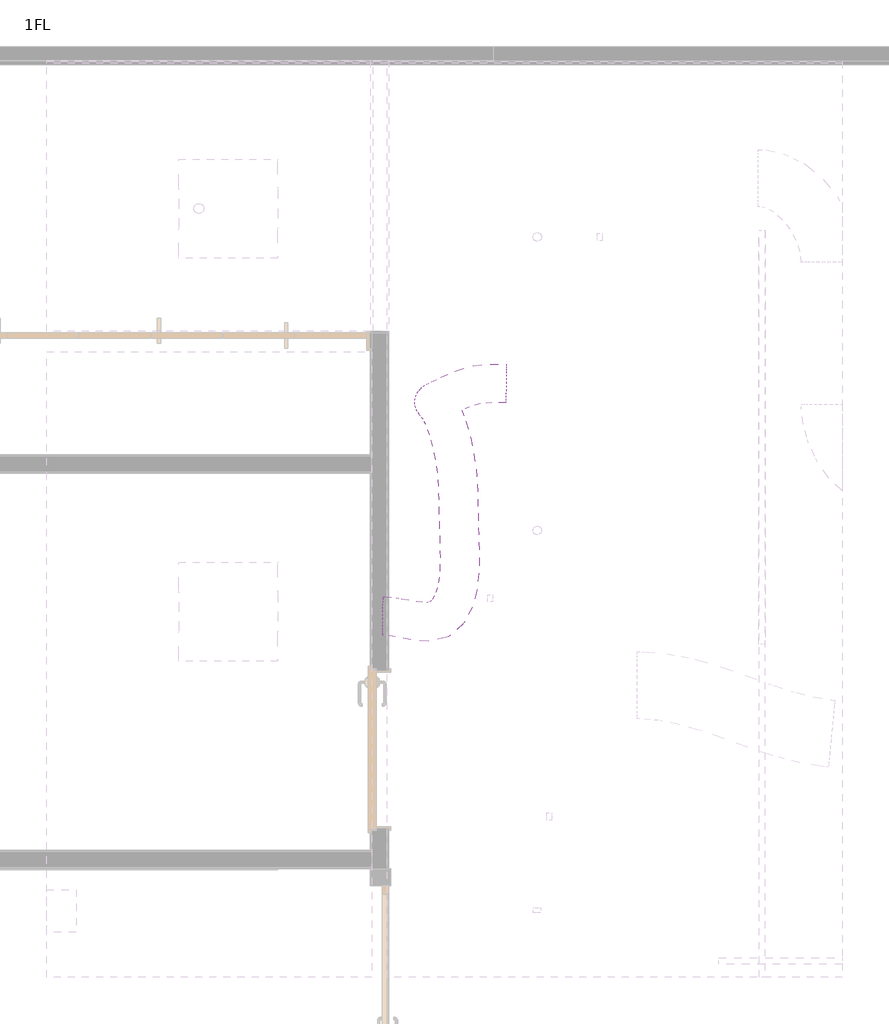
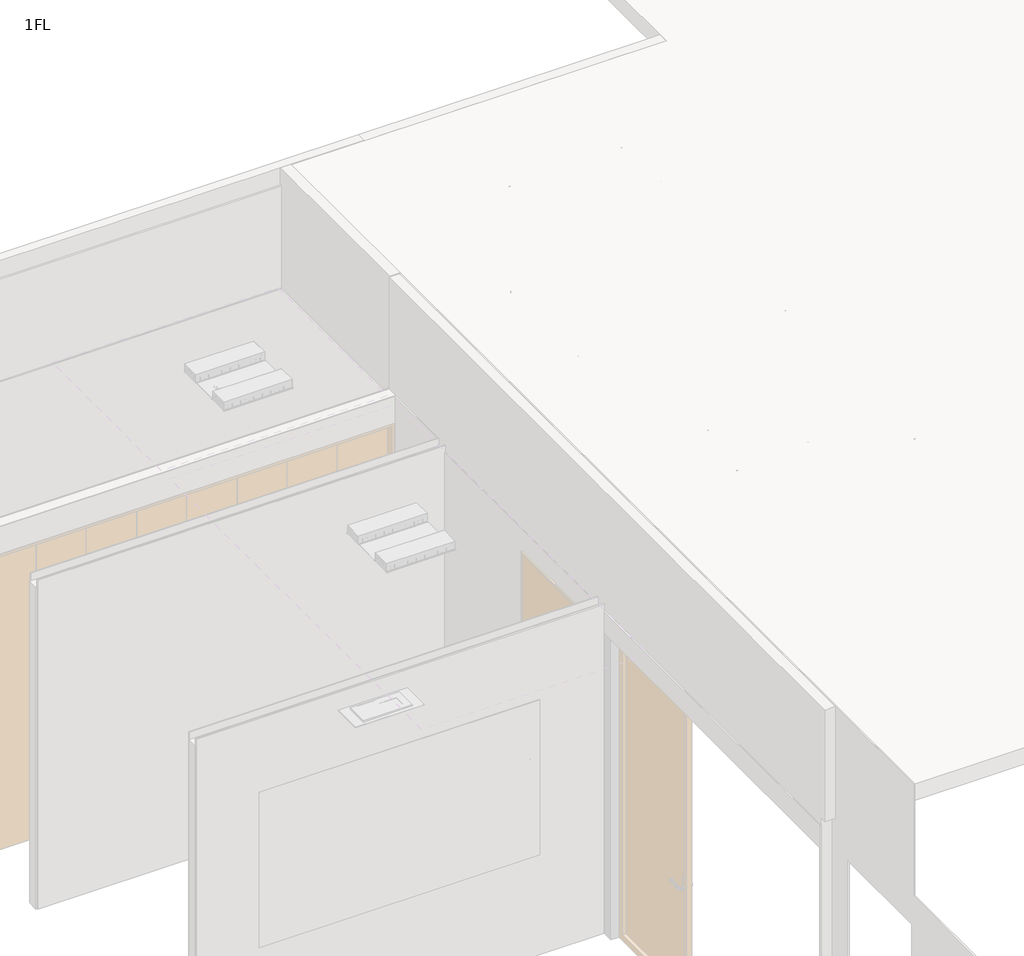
# One storey, part 9 of 13: 1 duct segment.
"""IFC4 building model written with IfcOpenShell, lengths in millimetres."""

from ifc_helpers import new_model, si_unit, frame, origin, place, context, project, spatial, circle_curve, ellipse_curve, element, save
from ifc_brep_helpers import plane_surface, cylinder_surface, advanced_brep

model = new_model("IFC4")

# Units and contexts
model_context = context("Model", 3, world=origin())
ifc_project = project(units=[si_unit("LENGTHUNIT", "METRE", prefix="MILLI")], contexts=[model_context])

# Site, building, storey
site = spatial("IfcSite", under=ifc_project)
building = spatial("IfcBuilding", under=site)
storey = spatial("IfcBuildingStorey", under=building, Name="1FL", Elevation=500.0)

# Duct segment
placement = place(None, origin())
element("IfcDuctSegment", 1, ObjectType="フレキシブル - 円形", at=placement, inside=storey, context=model_context, shape_type="AdvancedBrep", body=[
    advanced_brep(
    [(11564.0964601, 1894.3681261, 4003.3116784), (11562.5687896, 1779.3782734, 3888.3116784), (11561.0411191, 1664.3884208, 4003.3116784), (11562.5687896, 1779.3782734, 4118.3116784), (11581.5207576, 1894.1366398, 4003.3116784), (11571.4767234, 1779.2599292, 3888.3116784), (11565.6729496, 1664.3268857, 4003.3116784), (11575.7169838, 1779.2035962, 4118.3116784), (12294.9835824, 3088.6906135, 3419.6410914), (12297.0697563, 3250.5886874, 3434.9597581), (12293.774717, 3235.3139876, 3596.8418951), (12291.6885431, 3073.4159137, 3581.5232284), (11670.7682104, 1882.9715332, 4000.0041341), (11649.7184715, 1769.4716672, 3885.4120097), (11635.3506284, 1655.6100127, 4000.7293973), (11656.4003673, 1769.1098788, 4115.3215218), (11760.7863327, 1866.1458979, 3998.0699347), (11749.6735794, 1750.7886714, 3883.2642964), (11728.7610675, 1638.1503063, 3998.7223079), (11739.8738208, 1753.5075328, 4113.5279462), (11822.8723731, 1860.3041811, 4004.8655528), (11859.6055323, 1740.4451009, 3895.2968816), (11836.6038024, 1628.0033117, 4010.526218), (11799.8706433, 1747.8623919, 4120.0948892), (11857.6367273, 1868.7150689, 4019.9490414), (11961.9681698, 1765.2107172, 3939.7097784), (11942.5790592, 1653.6429651, 4056.506551), (11838.2476168, 1757.1473168, 4136.7458139), (11887.6927474, 1895.6194054, 4049.0016835), (12029.5092315, 1825.6694025, 4004.9960769), (12017.0288049, 1720.2858876, 4128.4708966), (11875.2123207, 1790.2358905, 4172.4765032), (11913.0246622, 1943.4599666, 4088.2863939), (12068.2509464, 1898.8350275, 4065.076693), (12063.4181067, 1807.8943551, 4200.4113837), (11908.1918226, 1852.5192942, 4223.6210846), (11928.556665, 2000.5655172, 4120.9167773), (12089.0543935, 1975.3217703, 4108.7815818), (12090.9378265, 1909.0744005, 4258.2261431), (11930.4400979, 1934.3181474, 4270.3613386), (11935.8418652, 2062.3640766, 4140.9532293), (12098.1850862, 2052.7751877, 4133.8936831), (12103.5088571, 2015.7113571, 4292.8001897), (11941.1656361, 2025.3002461, 4299.8597359), (11937.4114576, 2132.0536718, 4150.8372669), (12099.987433, 2132.7990341, 4145.243422), (12105.8650851, 2120.3274182, 4307.637829), (11943.2891097, 2119.5820558, 4313.231674), (11935.3844392, 2209.5269794, 4151.8087958), (12097.8581594, 2214.1805655, 4146.2639607), (12103.2749219, 2219.3243006, 4308.8792673), (11940.8012016, 2214.6707145, 4314.4241025), (11932.6558967, 2291.658419, 4145.7353059), (12095.1619574, 2295.3385316, 4140.2624576), (12100.1913905, 2312.1412094, 4302.0156039), (11937.6853298, 2308.4610968, 4307.4884522), (11931.0961198, 2373.8701857, 4134.8547808), (12093.6277389, 2376.2031792, 4129.5602204), (12098.4973666, 2401.4287839, 4290.198613), (11935.9657474, 2399.0957904, 4295.4931735), (11929.4915051, 2454.3764402, 4120.305756), (12091.9939349, 2458.1739122, 4114.7465362), (12096.7281584, 2490.1929749, 4274.1572206), (11934.2257286, 2486.395503, 4279.7164404), (11926.2675162, 2533.8436426, 4102.8738812), (12088.5876322, 2542.1349156, 4096.3289041), (12093.1125101, 2579.3140783, 4254.6076723), (11930.7923941, 2571.0228052, 4261.1526494), (11919.8741259, 2613.2048129, 4083.2643371), (12081.6082048, 2628.7705659, 4074.921891), (12085.8546569, 2669.4058296, 4232.3466829), (11924.1205779, 2653.8400765, 4240.6891289), (11908.7850275, 2693.2522189, 4062.1851163), (12069.2072797, 2718.2874824, 4051.3490242), (12073.135113, 2761.2227167, 4208.1681551), (11912.7128609, 2736.1874532, 4219.0042472), (11892.1602158, 2772.2299111, 4040.4187719), (12050.5520243, 2806.9109834, 4026.9242836), (12052.9960377, 2856.8952403, 4181.8006956), (11894.6042293, 2822.2141679, 4195.2951839), (11872.7241893, 2840.8638203, 4015.4462848), (12028.8909044, 2883.4023042, 3999.0928728), (12025.4043607, 2954.3289753, 4146.3493754), (11869.2376456, 2911.7904915, 4162.7027874), (11854.915573, 2889.1099231, 3985.0309839), (12009.0007049, 2937.2877154, 3965.1224399), (11991.776613, 3045.4313803, 4088.9166108), (11837.6914811, 2997.2535881, 4108.8251547), (11838.9434547, 2919.5131924, 3943.4178855), (11992.2196136, 2969.2308818, 3921.4016769), (11957.8718143, 3109.9698905, 4000.5824467), (11804.5956554, 3060.2522011, 4022.5986553), (11823.0857562, 2939.0695608, 3875.9429414), (11977.7557375, 2987.0683311, 3859.857485), (11933.7096963, 3139.7676121, 3897.7719683), (11779.0397151, 3091.7688418, 3913.8574246), (11813.7466235, 2949.762423, 3783.4089782), (11970.2312296, 2995.6835342, 3785.303182), (11923.9112319, 3150.986387, 3800.6868576), (11767.4266258, 3105.0652759, 3798.7926539), (11821.1451532, 2957.6122449, 3676.4483201), (11975.2540463, 3001.0127304, 3712.6882434), (11929.4375104, 3156.8497549, 3720.7933655), (11775.3286172, 3113.4492694, 3684.5534422), (11859.753422, 2974.6308787, 3565.0994109), (11995.0499031, 3009.7387999, 3655.5956274), (11946.9966407, 3164.5898691, 3670.1516228), (11811.7001596, 3129.4819478, 3579.6554064), (11938.8585124, 3012.7188486, 3480.2703023), (12031.1960842, 3027.1426693, 3616.8339206), (11976.7229617, 3178.9026676, 3638.274315), (11884.3853899, 3164.4788469, 3501.7106967), (12033.8491453, 3055.0723854, 3436.7944125), (12084.1013647, 3050.731582, 3592.6199105), (12033.3636684, 3204.1570973, 3612.3506524), (11983.111449, 3208.4979007, 3456.5251544), (12124.9026336, 3082.7319417, 3420.2166408), (12143.9924375, 3068.9248498, 3581.7157645), (12114.9647081, 3228.9452585, 3597.4938531), (12095.8749042, 3242.7523504, 3435.9947294), (12209.61364, 3089.9438945, 3418.0216798), (12210.7081255, 3074.6047539, 3579.9870831), (12205.0676567, 3236.6162594, 3595.1591804), (12203.9731712, 3251.9554, 3433.1937771)],
    [
        (0, 1, circle_curve(frame((11562.5687896, 1779.3782734, 4003.3116784), z_axis=(-0.9999117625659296, 0.013284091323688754, 0.0), x_axis=(0.013284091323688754, 0.9999117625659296, 0.0)), 115.0)),
        (1, 2, circle_curve(frame((11562.5687896, 1779.3782734, 4003.3116784), z_axis=(-0.9999117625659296, 0.013284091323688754, 0.0), x_axis=(0.013284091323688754, 0.9999117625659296, 0.0)), 115.0)),
        (2, 3, circle_curve(frame((11562.5687896, 1779.3782734, 4003.3116784), z_axis=(-0.9999117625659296, 0.013284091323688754, 0.0), x_axis=(0.013284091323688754, 0.9999117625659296, 0.0)), 115.0)),
        (3, 0, circle_curve(frame((11562.5687896, 1779.3782734, 4003.3116784), z_axis=(-0.9999117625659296, 0.013284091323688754, 0.0), x_axis=(0.013284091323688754, 0.9999117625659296, 0.0)), 115.0)),
        (0, 4),
        (4, 5, ellipse_curve(frame((11573.5968536, 1779.2317627, 4003.3116784), z_axis=(-0.997461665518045, 0.06878550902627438, 0.018405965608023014), x_axis=(-0.0710827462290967, -0.9467275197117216, -0.3140927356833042)), 115.1972863, 115.0)),
        (5, 1),
        (5, 6, ellipse_curve(frame((11573.5968536, 1779.2317627, 4003.3116784), z_axis=(-0.997461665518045, 0.06878550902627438, 0.018405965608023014), x_axis=(-0.0710827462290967, -0.9467275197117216, -0.3140927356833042)), 115.1972863, 115.0)),
        (6, 2),
        (6, 7, ellipse_curve(frame((11573.5968536, 1779.2317627, 4003.3116784), z_axis=(-0.997461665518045, 0.06878550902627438, 0.018405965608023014), x_axis=(-0.0710827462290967, -0.9467275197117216, -0.3140927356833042)), 115.1972863, 115.0)),
        (7, 3),
        (7, 4, ellipse_curve(frame((11573.5968536, 1779.2317627, 4003.3116784), z_axis=(-0.997461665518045, 0.06878550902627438, 0.018405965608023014), x_axis=(-0.0710827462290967, -0.9467275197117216, -0.3140927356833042)), 115.1972863, 115.0)),
        (8, 9, circle_curve(frame((12294.3791497, 3162.0023006, 3508.2414933), z_axis=(0.9997124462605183, -0.01467636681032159, 0.01896388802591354), x_axis=(0.005255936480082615, -0.6374929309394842, -0.7704382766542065)), 115.0)),
        (9, 10, circle_curve(frame((12294.3791497, 3162.0023006, 3508.2414933), z_axis=(0.9997124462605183, -0.01467636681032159, 0.01896388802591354), x_axis=(0.005255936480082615, -0.6374929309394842, -0.7704382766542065)), 115.0)),
        (10, 11, circle_curve(frame((12294.3791497, 3162.0023006, 3508.2414933), z_axis=(0.9997124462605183, -0.01467636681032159, 0.01896388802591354), x_axis=(0.005255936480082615, -0.6374929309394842, -0.7704382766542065)), 115.0)),
        (11, 8, circle_curve(frame((12294.3791497, 3162.0023006, 3508.2414933), z_axis=(0.9997124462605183, -0.01467636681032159, 0.01896388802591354), x_axis=(0.005255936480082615, -0.6374929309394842, -0.7704382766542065)), 115.0)),
        (4, 12),
        (12, 13, ellipse_curve(frame((11653.0594194, 1769.290773, 4000.3667657), z_axis=(-0.9876551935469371, 0.15394580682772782, 0.02894662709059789), x_axis=(-0.1418948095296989, -0.9575341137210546, 0.25098662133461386)), 115.0558066, 115.0)),
        (13, 5),
        (13, 14, ellipse_curve(frame((11653.0594194, 1769.290773, 4000.3667657), z_axis=(-0.9876551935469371, 0.15394580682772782, 0.02894662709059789), x_axis=(-0.1418948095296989, -0.9575341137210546, 0.25098662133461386)), 115.0558066, 115.0)),
        (14, 6),
        (14, 15, ellipse_curve(frame((11653.0594194, 1769.290773, 4000.3667657), z_axis=(-0.9876551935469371, 0.15394580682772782, 0.02894662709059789), x_axis=(-0.1418948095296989, -0.9575341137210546, 0.25098662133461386)), 115.0558066, 115.0)),
        (15, 7),
        (15, 12, ellipse_curve(frame((11653.0594194, 1769.290773, 4000.3667657), z_axis=(-0.9876551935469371, 0.15394580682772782, 0.02894662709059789), x_axis=(-0.1418948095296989, -0.9575341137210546, 0.25098662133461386)), 115.0558066, 115.0)),
        (12, 16),
        (16, 17, ellipse_curve(frame((11744.7737001, 1752.1481021, 3998.3961213), z_axis=(-0.9893477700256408, 0.13884297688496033, -0.04374491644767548), x_axis=(0.04417687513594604, 0.5726962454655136, 0.8185764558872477)), 115.3611815, 115.0)),
        (17, 13),
        (17, 18, ellipse_curve(frame((11744.7737001, 1752.1481021, 3998.3961213), z_axis=(-0.9893477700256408, 0.13884297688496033, -0.04374491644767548), x_axis=(0.04417687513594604, 0.5726962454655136, 0.8185764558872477)), 115.3611815, 115.0)),
        (18, 14),
        (18, 19, ellipse_curve(frame((11744.7737001, 1752.1481021, 3998.3961213), z_axis=(-0.9893477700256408, 0.13884297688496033, -0.04374491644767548), x_axis=(0.04417687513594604, 0.5726962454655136, 0.8185764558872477)), 115.3611815, 115.0)),
        (19, 15),
        (19, 16, ellipse_curve(frame((11744.7737001, 1752.1481021, 3998.3961213), z_axis=(-0.9893477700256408, 0.13884297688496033, -0.04374491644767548), x_axis=(0.04417687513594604, 0.5726962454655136, 0.8185764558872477)), 115.3611815, 115.0)),
        (16, 20),
        (20, 21, ellipse_curve(frame((11829.7380878, 1744.1537464, 4007.6958854), z_axis=(-0.9650419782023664, -0.06324212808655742, -0.2543509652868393), x_axis=(-0.2198917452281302, 0.7234524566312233, 0.6544189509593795)), 117.7303132, 115.0)),
        (21, 17),
        (21, 22, ellipse_curve(frame((11829.7380878, 1744.1537464, 4007.6958854), z_axis=(-0.9650419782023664, -0.06324212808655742, -0.2543509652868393), x_axis=(-0.2198917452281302, 0.7234524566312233, 0.6544189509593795)), 117.7303132, 115.0)),
        (22, 18),
        (22, 23, ellipse_curve(frame((11829.7380878, 1744.1537464, 4007.6958854), z_axis=(-0.9650419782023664, -0.06324212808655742, -0.2543509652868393), x_axis=(-0.2198917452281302, 0.7234524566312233, 0.6544189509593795)), 117.7303132, 115.0)),
        (23, 19),
        (23, 20, ellipse_curve(frame((11829.7380878, 1744.1537464, 4007.6958854), z_axis=(-0.9650419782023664, -0.06324212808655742, -0.2543509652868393), x_axis=(-0.2198917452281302, 0.7234524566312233, 0.6544189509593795)), 117.7303132, 115.0)),
        (20, 24),
        (24, 25, ellipse_curve(frame((11900.1078933, 1761.179017, 4038.2277962), z_axis=(-0.7724647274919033, -0.3902436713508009, -0.5010071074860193), x_axis=(-0.6089216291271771, 0.6791427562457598, 0.4098531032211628)), 118.4299941, 115.0)),
        (25, 21),
        (25, 26, ellipse_curve(frame((11900.1078933, 1761.179017, 4038.2277962), z_axis=(-0.7724647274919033, -0.3902436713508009, -0.5010071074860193), x_axis=(-0.6089216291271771, 0.6791427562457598, 0.4098531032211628)), 118.4299941, 115.0)),
        (26, 22),
        (26, 27, ellipse_curve(frame((11900.1078933, 1761.179017, 4038.2277962), z_axis=(-0.7724647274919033, -0.3902436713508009, -0.5010071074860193), x_axis=(-0.6089216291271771, 0.6791427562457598, 0.4098531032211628)), 118.4299941, 115.0)),
        (27, 23),
        (27, 24, ellipse_curve(frame((11900.1078933, 1761.179017, 4038.2277962), z_axis=(-0.7724647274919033, -0.3902436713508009, -0.5010071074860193), x_axis=(-0.6089216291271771, 0.6791427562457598, 0.4098531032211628)), 118.4299941, 115.0)),
        (24, 28),
        (28, 29, ellipse_curve(frame((11952.3607761, 1807.9526465, 4088.7362901), z_axis=(-0.4967448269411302, -0.6347166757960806, -0.5919284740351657), x_axis=(-0.7920677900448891, 0.6103473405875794, 0.01023424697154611)), 116.1871096, 115.0)),
        (29, 25),
        (29, 30, ellipse_curve(frame((11952.3607761, 1807.9526465, 4088.7362901), z_axis=(-0.4967448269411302, -0.6347166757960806, -0.5919284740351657), x_axis=(-0.7920677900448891, 0.6103473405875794, 0.01023424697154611)), 116.1871096, 115.0)),
        (30, 26),
        (30, 31, ellipse_curve(frame((11952.3607761, 1807.9526465, 4088.7362901), z_axis=(-0.4967448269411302, -0.6347166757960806, -0.5919284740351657), x_axis=(-0.7920677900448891, 0.6103473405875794, 0.01023424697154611)), 116.1871096, 115.0)),
        (31, 27),
        (31, 28, ellipse_curve(frame((11952.3607761, 1807.9526465, 4088.7362901), z_axis=(-0.4967448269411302, -0.6347166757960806, -0.5919284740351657), x_axis=(-0.7920677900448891, 0.6103473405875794, 0.01023424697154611)), 116.1871096, 115.0)),
        (28, 32),
        (32, 33, ellipse_curve(frame((11988.2213845, 1875.6771609, 4144.3488888), z_axis=(-0.306199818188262, -0.785047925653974, -0.5384620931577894), x_axis=(-0.6663946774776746, 0.5806928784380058, -0.4676685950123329)), 115.7244906, 115.0)),
        (33, 29),
        (33, 34, ellipse_curve(frame((11988.2213845, 1875.6771609, 4144.3488888), z_axis=(-0.306199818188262, -0.785047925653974, -0.5384620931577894), x_axis=(-0.6663946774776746, 0.5806928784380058, -0.4676685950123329)), 115.7244906, 115.0)),
        (34, 30),
        (34, 35, ellipse_curve(frame((11988.2213845, 1875.6771609, 4144.3488888), z_axis=(-0.306199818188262, -0.785047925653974, -0.5384620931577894), x_axis=(-0.6663946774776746, 0.5806928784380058, -0.4676685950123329)), 115.7244906, 115.0)),
        (35, 31),
        (35, 32, ellipse_curve(frame((11988.2213845, 1875.6771609, 4144.3488888), z_axis=(-0.306199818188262, -0.785047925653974, -0.5384620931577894), x_axis=(-0.6663946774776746, 0.5806928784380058, -0.4676685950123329)), 115.7244906, 115.0)),
        (32, 36),
        (36, 37, ellipse_curve(frame((12009.7472457, 1954.8199588, 4189.5714602), z_axis=(-0.17182573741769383, -0.9014064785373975, -0.3974195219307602), x_axis=(-0.5040059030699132, 0.427061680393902, -0.7507305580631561)), 115.8014871, 115.0)),
        (37, 33),
        (37, 38, ellipse_curve(frame((12009.7472457, 1954.8199588, 4189.5714602), z_axis=(-0.17182573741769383, -0.9014064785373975, -0.3974195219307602), x_axis=(-0.5040059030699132, 0.427061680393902, -0.7507305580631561)), 115.8014871, 115.0)),
        (38, 34),
        (38, 39, ellipse_curve(frame((12009.7472457, 1954.8199588, 4189.5714602), z_axis=(-0.17182573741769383, -0.9014064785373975, -0.3974195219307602), x_axis=(-0.5040059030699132, 0.427061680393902, -0.7507305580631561)), 115.8014871, 115.0)),
        (39, 35),
        (39, 36, ellipse_curve(frame((12009.7472457, 1954.8199588, 4189.5714602), z_axis=(-0.17182573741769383, -0.9014064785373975, -0.3974195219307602), x_axis=(-0.5040059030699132, 0.427061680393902, -0.7507305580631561)), 115.8014871, 115.0)),
        (36, 40),
        (40, 41, ellipse_curve(frame((12019.6753612, 2039.0377169, 4216.8767095), z_axis=(-0.06718326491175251, -0.9721559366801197, -0.22449775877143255), x_axis=(-0.46022780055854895, 0.22983386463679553, -0.8575352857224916)), 115.5431809, 115.0)),
        (41, 37),
        (41, 42, ellipse_curve(frame((12019.6753612, 2039.0377169, 4216.8767095), z_axis=(-0.06718326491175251, -0.9721559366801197, -0.22449775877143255), x_axis=(-0.46022780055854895, 0.22983386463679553, -0.8575352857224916)), 115.5431809, 115.0)),
        (42, 38),
        (42, 43, ellipse_curve(frame((12019.6753612, 2039.0377169, 4216.8767095), z_axis=(-0.06718326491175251, -0.9721559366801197, -0.22449775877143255), x_axis=(-0.46022780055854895, 0.22983386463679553, -0.8575352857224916)), 115.5431809, 115.0)),
        (43, 39),
        (43, 40, ellipse_curve(frame((12019.6753612, 2039.0377169, 4216.8767095), z_axis=(-0.06718326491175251, -0.9721559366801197, -0.22449775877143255), x_axis=(-0.46022780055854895, 0.22983386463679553, -0.8575352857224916)), 115.5431809, 115.0)),
        (40, 44),
        (44, 45, ellipse_curve(frame((12021.6382714, 2126.190545, 4229.237548), z_axis=(0.001934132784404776, -0.997056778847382, -0.07664227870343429), x_axis=(-0.35344328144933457, 0.071013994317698, -0.9327565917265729)), 115.2710412, 115.0)),
        (45, 41),
        (45, 46, ellipse_curve(frame((12021.6382714, 2126.190545, 4229.237548), z_axis=(0.001934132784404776, -0.997056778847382, -0.07664227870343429), x_axis=(-0.35344328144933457, 0.071013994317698, -0.9327565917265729)), 115.2710412, 115.0)),
        (46, 42),
        (46, 47, ellipse_curve(frame((12021.6382714, 2126.190545, 4229.237548), z_axis=(0.001934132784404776, -0.997056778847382, -0.07664227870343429), x_axis=(-0.35344328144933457, 0.071013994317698, -0.9327565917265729)), 115.2710412, 115.0)),
        (47, 43),
        (47, 44, ellipse_curve(frame((12021.6382714, 2126.190545, 4229.237548), z_axis=(0.001934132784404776, -0.997056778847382, -0.07664227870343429), x_axis=(-0.35344328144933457, 0.071013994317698, -0.9327565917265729)), 115.2710412, 115.0)),
        (44, 48),
        (48, 49, ellipse_curve(frame((12019.3296805, 2214.42564, 4230.3440316), z_axis=(0.029660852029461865, -0.9990910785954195, 0.03061454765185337), x_axis=(-0.08039780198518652, -0.0329133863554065, -0.9962193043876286)), 115.1078801, 115.0)),
        (49, 45),
        (49, 50, ellipse_curve(frame((12019.3296805, 2214.42564, 4230.3440316), z_axis=(0.029660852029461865, -0.9990910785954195, 0.03061454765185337), x_axis=(-0.08039780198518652, -0.0329133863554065, -0.9962193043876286)), 115.1078801, 115.0)),
        (50, 46),
        (50, 51, ellipse_curve(frame((12019.3296805, 2214.42564, 4230.3440316), z_axis=(0.029660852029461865, -0.9990910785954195, 0.03061454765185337), x_axis=(-0.08039780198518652, -0.0329133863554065, -0.9962193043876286)), 115.1078801, 115.0)),
        (51, 47),
        (51, 48, ellipse_curve(frame((12019.3296805, 2214.42564, 4230.3440316), z_axis=(0.029660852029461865, -0.9990910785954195, 0.03061454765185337), x_axis=(-0.08039780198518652, -0.0329133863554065, -0.9962193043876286)), 115.1078801, 115.0)),
        (48, 52),
        (52, 53, ellipse_curve(frame((12016.4236436, 2301.8998142, 4223.8754549), z_axis=(0.025970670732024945, -0.994395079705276, 0.102488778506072), x_axis=(0.24051693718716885, -0.09329614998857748, -0.9661508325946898)), 115.050903, 115.0)),
        (53, 49),
        (53, 54, ellipse_curve(frame((12016.4236436, 2301.8998142, 4223.8754549), z_axis=(0.025970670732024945, -0.994395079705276, 0.102488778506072), x_axis=(0.24051693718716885, -0.09329614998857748, -0.9661508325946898)), 115.050903, 115.0)),
        (54, 50),
        (54, 55, ellipse_curve(frame((12016.4236436, 2301.8998142, 4223.8754549), z_axis=(0.025970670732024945, -0.994395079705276, 0.102488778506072), x_axis=(0.24051693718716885, -0.09329614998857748, -0.9661508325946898)), 115.050903, 115.0)),
        (55, 51),
        (55, 52, ellipse_curve(frame((12016.4236436, 2301.8998142, 4223.8754549), z_axis=(0.025970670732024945, -0.994395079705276, 0.102488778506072), x_axis=(0.24051693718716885, -0.09329614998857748, -0.9661508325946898)), 115.050903, 115.0)),
        (52, 56),
        (56, 57, ellipse_curve(frame((12014.7967432, 2387.6494848, 4212.5266969), z_axis=(0.019213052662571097, -0.9878004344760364, 0.1545353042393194), x_axis=(-0.017049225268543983, -0.15486505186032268, -0.9877885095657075)), 115.0320391, 115.0)),
        (57, 53),
        (57, 58, ellipse_curve(frame((12014.7967432, 2387.6494848, 4212.5266969), z_axis=(0.019213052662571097, -0.9878004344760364, 0.1545353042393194), x_axis=(-0.017049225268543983, -0.15486505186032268, -0.9877885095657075)), 115.0320391, 115.0)),
        (58, 54),
        (58, 59, ellipse_curve(frame((12014.7967432, 2387.6494848, 4212.5266969), z_axis=(0.019213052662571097, -0.9878004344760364, 0.1545353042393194), x_axis=(-0.017049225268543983, -0.15486505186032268, -0.9877885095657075)), 115.0320391, 115.0)),
        (59, 55),
        (59, 56, ellipse_curve(frame((12014.7967432, 2387.6494848, 4212.5266969), z_axis=(0.019213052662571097, -0.9878004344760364, 0.1545353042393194), x_axis=(-0.017049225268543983, -0.15486505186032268, -0.9877885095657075)), 115.0320391, 115.0)),
        (56, 60),
        (60, 61, ellipse_curve(frame((12013.1098317, 2472.2847076, 4197.2314883), z_axis=(0.02960999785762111, -0.9801579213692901, 0.19599412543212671), x_axis=(-0.47394159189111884, -0.1864046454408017, -0.8606001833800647)), 115.0255732, 115.0)),
        (61, 57),
        (61, 62, ellipse_curve(frame((12013.1098317, 2472.2847076, 4197.2314883), z_axis=(0.02960999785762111, -0.9801579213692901, 0.19599412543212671), x_axis=(-0.47394159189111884, -0.1864046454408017, -0.8606001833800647)), 115.0255732, 115.0)),
        (62, 58),
        (62, 63, ellipse_curve(frame((12013.1098317, 2472.2847076, 4197.2314883), z_axis=(0.02960999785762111, -0.9801579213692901, 0.19599412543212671), x_axis=(-0.47394159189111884, -0.1864046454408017, -0.8606001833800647)), 115.0255732, 115.0)),
        (63, 59),
        (63, 60, ellipse_curve(frame((12013.1098317, 2472.2847076, 4197.2314883), z_axis=(0.02960999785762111, -0.9801579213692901, 0.19599412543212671), x_axis=(-0.47394159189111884, -0.1864046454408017, -0.8606001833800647)), 115.0255732, 115.0)),
        (60, 64),
        (64, 65, ellipse_curve(frame((12009.6900131, 2556.5788604, 4178.7407767), z_axis=(0.0587995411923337, -0.9721919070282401, 0.22668372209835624), x_axis=(-0.8243910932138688, -0.17534555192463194, -0.5381758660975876)), 115.0311591, 115.0)),
        (65, 61),
        (65, 66, ellipse_curve(frame((12009.6900131, 2556.5788604, 4178.7407767), z_axis=(0.0587995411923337, -0.9721919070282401, 0.22668372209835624), x_axis=(-0.8243910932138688, -0.17534555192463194, -0.5381758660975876)), 115.0311591, 115.0)),
        (66, 62),
        (66, 67, ellipse_curve(frame((12009.6900131, 2556.5788604, 4178.7407767), z_axis=(0.0587995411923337, -0.9721919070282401, 0.22668372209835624), x_axis=(-0.8243910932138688, -0.17534555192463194, -0.5381758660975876)), 115.0311591, 115.0)),
        (67, 63),
        (67, 64, ellipse_curve(frame((12009.6900131, 2556.5788604, 4178.7407767), z_axis=(0.0587995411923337, -0.9721919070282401, 0.22668372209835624), x_axis=(-0.8243910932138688, -0.17534555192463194, -0.5381758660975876)), 115.0311591, 115.0)),
        (64, 68),
        (68, 69, ellipse_curve(frame((12002.8643914, 2641.3053212, 4157.80551), z_axis=(0.1054175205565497, -0.9635525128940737, 0.2458733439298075), x_axis=(-0.9588297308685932, -0.16405097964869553, -0.23180341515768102)), 115.0469979, 115.0)),
        (69, 65),
        (69, 70, ellipse_curve(frame((12002.8643914, 2641.3053212, 4157.80551), z_axis=(0.1054175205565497, -0.9635525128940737, 0.2458733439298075), x_axis=(-0.9588297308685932, -0.16405097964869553, -0.23180341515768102)), 115.0469979, 115.0)),
        (70, 66),
        (70, 71, ellipse_curve(frame((12002.8643914, 2641.3053212, 4157.80551), z_axis=(0.1054175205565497, -0.9635525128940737, 0.2458733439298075), x_axis=(-0.9588297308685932, -0.16405097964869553, -0.23180341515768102)), 115.0469979, 115.0)),
        (71, 67),
        (71, 68, ellipse_curve(frame((12002.8643914, 2641.3053212, 4157.80551), z_axis=(0.1054175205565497, -0.9635525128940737, 0.2458733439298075), x_axis=(-0.9588297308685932, -0.16405097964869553, -0.23180341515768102)), 115.0469979, 115.0)),
        (68, 72),
        (72, 73, ellipse_curve(frame((11990.9600703, 2727.2374678, 4135.1766357), z_axis=(0.16592520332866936, -0.9521846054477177, 0.25654103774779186), x_axis=(-0.9724862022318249, -0.20113195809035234, -0.11754370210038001)), 115.0664728, 115.0)),
        (73, 69),
        (73, 74, ellipse_curve(frame((11990.9600703, 2727.2374678, 4135.1766357), z_axis=(0.16592520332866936, -0.9521846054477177, 0.25654103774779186), x_axis=(-0.9724862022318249, -0.20113195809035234, -0.11754370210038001)), 115.0664728, 115.0)),
        (74, 70),
        (74, 75, ellipse_curve(frame((11990.9600703, 2727.2374678, 4135.1766357), z_axis=(0.16592520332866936, -0.9521846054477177, 0.25654103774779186), x_axis=(-0.9724862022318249, -0.20113195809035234, -0.11754370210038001)), 115.0664728, 115.0)),
        (75, 71),
        (75, 72, ellipse_curve(frame((11990.9600703, 2727.2374678, 4135.1766357), z_axis=(0.16592520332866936, -0.9521846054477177, 0.25654103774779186), x_axis=(-0.9724862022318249, -0.20113195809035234, -0.11754370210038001)), 115.0664728, 115.0)),
        (72, 76),
        (76, 77, ellipse_curve(frame((11972.5781268, 2814.5625757, 4111.1097337), z_axis=(0.22829856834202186, -0.9275802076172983, 0.29576125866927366), x_axis=(-0.5934245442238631, -0.373407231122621, -0.7130318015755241)), 115.1389272, 115.0)),
        (77, 73),
        (77, 78, ellipse_curve(frame((11972.5781268, 2814.5625757, 4111.1097337), z_axis=(0.22829856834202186, -0.9275802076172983, 0.29576125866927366), x_axis=(-0.5934245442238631, -0.373407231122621, -0.7130318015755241)), 115.1389272, 115.0)),
        (78, 74),
        (78, 79, ellipse_curve(frame((11972.5781268, 2814.5625757, 4111.1097337), z_axis=(0.22829856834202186, -0.9275802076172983, 0.29576125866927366), x_axis=(-0.5934245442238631, -0.373407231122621, -0.7130318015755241)), 115.1389272, 115.0)),
        (79, 75),
        (79, 76, ellipse_curve(frame((11972.5781268, 2814.5625757, 4111.1097337), z_axis=(0.22829856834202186, -0.9275802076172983, 0.29576125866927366), x_axis=(-0.5934245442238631, -0.373407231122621, -0.7130318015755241)), 115.1389272, 115.0)),
        (76, 80),
        (80, 81, ellipse_curve(frame((11949.064275, 2897.5963978, 4080.8978301), z_axis=(0.2791412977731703, -0.8625280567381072, 0.4220491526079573), x_axis=(-0.19559050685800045, -0.48137722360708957, -0.854412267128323)), 115.6335285, 115.0)),
        (81, 77),
        (81, 82, ellipse_curve(frame((11949.064275, 2897.5963978, 4080.8978301), z_axis=(0.2791412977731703, -0.8625280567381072, 0.4220491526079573), x_axis=(-0.19559050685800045, -0.48137722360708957, -0.854412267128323)), 115.6335285, 115.0)),
        (82, 78),
        (82, 83, ellipse_curve(frame((11949.064275, 2897.5963978, 4080.8978301), z_axis=(0.2791412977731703, -0.8625280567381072, 0.4220491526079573), x_axis=(-0.19559050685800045, -0.48137722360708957, -0.854412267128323)), 115.6335285, 115.0)),
        (83, 79),
        (83, 80, ellipse_curve(frame((11949.064275, 2897.5963978, 4080.8978301), z_axis=(0.2791412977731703, -0.8625280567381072, 0.4220491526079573), x_axis=(-0.19559050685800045, -0.48137722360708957, -0.854412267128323)), 115.6335285, 115.0)),
        (80, 84),
        (84, 85, ellipse_curve(frame((11923.346093, 2967.2706517, 4036.9737973), z_axis=(0.3019239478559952, -0.6967526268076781, 0.6506748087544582), x_axis=(0.005667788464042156, -0.6812030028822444, -0.7320726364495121)), 116.889683, 115.0)),
        (85, 81),
        (85, 86, ellipse_curve(frame((11923.346093, 2967.2706517, 4036.9737973), z_axis=(0.3019239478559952, -0.6967526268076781, 0.6506748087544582), x_axis=(0.005667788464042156, -0.6812030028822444, -0.7320726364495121)), 116.889683, 115.0)),
        (86, 82),
        (86, 87, ellipse_curve(frame((11923.346093, 2967.2706517, 4036.9737973), z_axis=(0.3019239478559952, -0.6967526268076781, 0.6506748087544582), x_axis=(0.005667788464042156, -0.6812030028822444, -0.7320726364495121)), 116.889683, 115.0)),
        (87, 83),
        (87, 84, ellipse_curve(frame((11923.346093, 2967.2706517, 4036.9737973), z_axis=(0.3019239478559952, -0.6967526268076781, 0.6506748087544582), x_axis=(0.005667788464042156, -0.6812030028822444, -0.7320726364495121)), 116.889683, 115.0)),
        (84, 88),
        (88, 89, ellipse_curve(frame((11898.4076345, 3014.7415414, 3972.0001661), z_axis=(0.2620150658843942, -0.42384067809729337, 0.8670104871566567), x_axis=(0.22038589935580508, -0.8483791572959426, -0.48133445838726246)), 116.7411178, 115.0)),
        (89, 85),
        (89, 90, ellipse_curve(frame((11898.4076345, 3014.7415414, 3972.0001661), z_axis=(0.2620150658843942, -0.42384067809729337, 0.8670104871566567), x_axis=(0.22038589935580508, -0.8483791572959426, -0.48133445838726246)), 116.7411178, 115.0)),
        (90, 86),
        (90, 91, ellipse_curve(frame((11898.4076345, 3014.7415414, 3972.0001661), z_axis=(0.2620150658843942, -0.42384067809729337, 0.8670104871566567), x_axis=(0.22038589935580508, -0.8483791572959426, -0.48133445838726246)), 116.7411178, 115.0)),
        (91, 87),
        (91, 88, ellipse_curve(frame((11898.4076345, 3014.7415414, 3972.0001661), z_axis=(0.2620150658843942, -0.42384067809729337, 0.8670104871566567), x_axis=(0.22038589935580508, -0.8483791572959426, -0.48133445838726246)), 116.7411178, 115.0)),
        (88, 92),
        (92, 93, ellipse_curve(frame((11878.3977263, 3039.4185865, 3886.8574548), z_axis=(0.1608176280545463, -0.19389986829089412, 0.9677502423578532), x_axis=(0.5882615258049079, -0.7684917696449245, -0.2517315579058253)), 115.6072211, 115.0)),
        (93, 89),
        (93, 94, ellipse_curve(frame((11878.3977263, 3039.4185865, 3886.8574548), z_axis=(0.1608176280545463, -0.19389986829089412, 0.9677502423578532), x_axis=(0.5882615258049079, -0.7684917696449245, -0.2517315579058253)), 115.6072211, 115.0)),
        (94, 90),
        (94, 95, ellipse_curve(frame((11878.3977263, 3039.4185865, 3886.8574548), z_axis=(0.1608176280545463, -0.19389986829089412, 0.9677502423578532), x_axis=(0.5882615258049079, -0.7684917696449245, -0.2517315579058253)), 115.6072211, 115.0)),
        (95, 91),
        (95, 92, ellipse_curve(frame((11878.3977263, 3039.4185865, 3886.8574548), z_axis=(0.1608176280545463, -0.19389986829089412, 0.9677502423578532), x_axis=(0.5882615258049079, -0.7684917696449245, -0.2517315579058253)), 115.6072211, 115.0)),
        (92, 96),
        (96, 97, ellipse_curve(frame((11868.8289277, 3050.374405, 3792.0479179), z_axis=(0.015527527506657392, -0.09397444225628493, 0.9954535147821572), x_axis=(0.9707256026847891, -0.23723974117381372, -0.03753810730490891)), 115.4360086, 115.0)),
        (97, 93),
        (97, 98, ellipse_curve(frame((11868.8289277, 3050.374405, 3792.0479179), z_axis=(0.015527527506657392, -0.09397444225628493, 0.9954535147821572), x_axis=(0.9707256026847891, -0.23723974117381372, -0.03753810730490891)), 115.4360086, 115.0)),
        (98, 94),
        (98, 99, ellipse_curve(frame((11868.8289277, 3050.374405, 3792.0479179), z_axis=(0.015527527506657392, -0.09397444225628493, 0.9954535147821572), x_axis=(0.9707256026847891, -0.23723974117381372, -0.03753810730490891)), 115.4360086, 115.0)),
        (99, 95),
        (99, 96, ellipse_curve(frame((11868.8289277, 3050.374405, 3792.0479179), z_axis=(0.015527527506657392, -0.09397444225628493, 0.9954535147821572), x_axis=(0.9707256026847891, -0.23723974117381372, -0.03753810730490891)), 115.4360086, 115.0)),
        (96, 100),
        (100, 101, ellipse_curve(frame((11875.2913318, 3057.2309999, 3698.6208428), z_axis=(-0.19836443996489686, -0.10898033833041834, 0.9740507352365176), x_axis=(0.9408085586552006, 0.2574907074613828, 0.22040370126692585)), 116.0743539, 115.0)),
        (101, 97),
        (101, 102, ellipse_curve(frame((11875.2913318, 3057.2309999, 3698.6208428), z_axis=(-0.19836443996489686, -0.10898033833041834, 0.9740507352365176), x_axis=(0.9408085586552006, 0.2574907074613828, 0.22040370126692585)), 116.0743539, 115.0)),
        (102, 98),
        (102, 103, ellipse_curve(frame((11875.2913318, 3057.2309999, 3698.6208428), z_axis=(-0.19836443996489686, -0.10898033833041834, 0.9740507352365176), x_axis=(0.9408085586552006, 0.2574907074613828, 0.22040370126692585)), 116.0743539, 115.0)),
        (103, 99),
        (103, 100, ellipse_curve(frame((11875.2913318, 3057.2309999, 3698.6208428), z_axis=(-0.19836443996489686, -0.10898033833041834, 0.9740507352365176), x_axis=(0.9408085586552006, 0.2574907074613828, 0.22040370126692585)), 116.0743539, 115.0)),
        (100, 104),
        (104, 105, ellipse_curve(frame((11903.3750314, 3069.6103739, 3617.6255169), z_axis=(-0.49814379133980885, -0.23309026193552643, 0.8351776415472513), x_axis=(0.7405189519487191, 0.38672317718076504, 0.549615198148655)), 117.8497259, 115.0)),
        (105, 101),
        (105, 106, ellipse_curve(frame((11903.3750314, 3069.6103739, 3617.6255169), z_axis=(-0.49814379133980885, -0.23309026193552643, 0.8351776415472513), x_axis=(0.7405189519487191, 0.38672317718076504, 0.549615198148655)), 117.8497259, 115.0)),
        (106, 102),
        (106, 107, ellipse_curve(frame((11903.3750314, 3069.6103739, 3617.6255169), z_axis=(-0.49814379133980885, -0.23309026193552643, 0.8351776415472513), x_axis=(0.7405189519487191, 0.38672317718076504, 0.549615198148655)), 117.8497259, 115.0)),
        (107, 103),
        (107, 104, ellipse_curve(frame((11903.3750314, 3069.6103739, 3617.6255169), z_axis=(-0.49814379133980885, -0.23309026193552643, 0.8351776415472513), x_axis=(0.7405189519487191, 0.38672317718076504, 0.549615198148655)), 117.8497259, 115.0)),
        (104, 108),
        (108, 109, ellipse_curve(frame((11957.790737, 3095.8107581, 3559.2723087), z_axis=(-0.7584698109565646, -0.3499216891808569, 0.5497984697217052), x_axis=(0.5249701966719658, 0.17184771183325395, 0.8335914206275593)), 117.0299199, 115.0)),
        (109, 105),
        (109, 110, ellipse_curve(frame((11957.790737, 3095.8107581, 3559.2723087), z_axis=(-0.7584698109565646, -0.3499216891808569, 0.5497984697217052), x_axis=(0.5249701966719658, 0.17184771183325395, 0.8335914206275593)), 117.0299199, 115.0)),
        (110, 106),
        (110, 111, ellipse_curve(frame((11957.790737, 3095.8107581, 3559.2723087), z_axis=(-0.7584698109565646, -0.3499216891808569, 0.5497984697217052), x_axis=(0.5249701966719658, 0.17184771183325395, 0.8335914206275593)), 117.0299199, 115.0)),
        (111, 107),
        (111, 108, ellipse_curve(frame((11957.790737, 3095.8107581, 3559.2723087), z_axis=(-0.7584698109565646, -0.3499216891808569, 0.5497984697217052), x_axis=(0.5249701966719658, 0.17184771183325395, 0.8335914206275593)), 117.0299199, 115.0)),
        (108, 112),
        (112, 113, ellipse_curve(frame((12033.6064068, 3129.6147413, 3524.5725325), z_axis=(-0.8998539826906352, -0.33370491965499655, 0.28089826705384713), x_axis=(0.39575874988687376, -0.3538380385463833, 0.8474512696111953)), 115.9282508, 115.0)),
        (113, 109),
        (113, 114, ellipse_curve(frame((12033.6064068, 3129.6147413, 3524.5725325), z_axis=(-0.8998539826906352, -0.33370491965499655, 0.28089826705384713), x_axis=(0.39575874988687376, -0.3538380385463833, 0.8474512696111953)), 115.9282508, 115.0)),
        (114, 110),
        (114, 115, ellipse_curve(frame((12033.6064068, 3129.6147413, 3524.5725325), z_axis=(-0.8998539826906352, -0.33370491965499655, 0.28089826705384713), x_axis=(0.39575874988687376, -0.3538380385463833, 0.8474512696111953)), 115.9282508, 115.0)),
        (115, 111),
        (115, 112, ellipse_curve(frame((12033.6064068, 3129.6147413, 3524.5725325), z_axis=(-0.8998539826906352, -0.33370491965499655, 0.28089826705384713), x_axis=(0.39575874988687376, -0.3538380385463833, 0.8474512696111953)), 115.9282508, 115.0)),
        (112, 116),
        (116, 117, ellipse_curve(frame((12119.9336709, 3155.8386001, 3508.8552469), z_axis=(-0.9772876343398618, -0.1870932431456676, 0.09952385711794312), x_axis=(0.21000761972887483, -0.7921302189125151, 0.5730850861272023)), 115.9420366, 115.0)),
        (117, 113),
        (117, 118, ellipse_curve(frame((12119.9336709, 3155.8386001, 3508.8552469), z_axis=(-0.9772876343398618, -0.1870932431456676, 0.09952385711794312), x_axis=(0.21000761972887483, -0.7921302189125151, 0.5730850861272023)), 115.9420366, 115.0)),
        (118, 114),
        (118, 119, ellipse_curve(frame((12119.9336709, 3155.8386001, 3508.8552469), z_axis=(-0.9772876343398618, -0.1870932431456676, 0.09952385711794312), x_axis=(0.21000761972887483, -0.7921302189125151, 0.5730850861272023)), 115.9420366, 115.0)),
        (119, 115),
        (119, 116, ellipse_curve(frame((12119.9336709, 3155.8386001, 3508.8552469), z_axis=(-0.9772876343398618, -0.1870932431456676, 0.09952385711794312), x_axis=(0.21000761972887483, -0.7921302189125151, 0.5730850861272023)), 115.9420366, 115.0)),
        (116, 120),
        (120, 121, ellipse_curve(frame((12207.3406483, 3163.280077, 3506.5904301), z_axis=(-0.9993774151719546, -0.035114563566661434, 0.003427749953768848), x_axis=(0.03342969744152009, -0.9113832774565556, 0.4101987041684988)), 115.1716423, 115.0)),
        (121, 117),
        (121, 122, ellipse_curve(frame((12207.3406483, 3163.280077, 3506.5904301), z_axis=(-0.9993774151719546, -0.035114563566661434, 0.003427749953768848), x_axis=(0.03342969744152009, -0.9113832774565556, 0.4101987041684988)), 115.1716423, 115.0)),
        (122, 118),
        (122, 123, ellipse_curve(frame((12207.3406483, 3163.280077, 3506.5904301), z_axis=(-0.9993774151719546, -0.035114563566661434, 0.003427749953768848), x_axis=(0.03342969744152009, -0.9113832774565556, 0.4101987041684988)), 115.1716423, 115.0)),
        (123, 119),
        (123, 120, ellipse_curve(frame((12207.3406483, 3163.280077, 3506.5904301), z_axis=(-0.9993774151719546, -0.035114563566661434, 0.003427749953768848), x_axis=(0.03342969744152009, -0.9113832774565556, 0.4101987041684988)), 115.1716423, 115.0)),
        (120, 8),
        (11, 121),
        (10, 122),
        (9, 123),
    ],
    [
        plane_surface(frame((11562.5687896, 1779.3782734, 3888.3116784), z_axis=(-0.9999117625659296, 0.013284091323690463, 0.0), x_axis=(0.013284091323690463, 0.9999117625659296, 0.0))),
        cylinder_surface(frame((11562.5687896, 1779.3782734, 4003.3116784), z_axis=(-0.9999117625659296, 0.013284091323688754, 0.0), x_axis=(0.013284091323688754, 0.9999117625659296, 0.0)), 115.0),
        plane_surface(frame((12294.3791497, 3071.0566491, 3437.857628), z_axis=(0.9997124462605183, -0.014676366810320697, 0.018963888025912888), x_axis=(0.023979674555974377, 0.611857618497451, -0.7906043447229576))),
        cylinder_surface(frame((11573.5968536, 1779.2317627, 4003.3116784), z_axis=(-0.9915950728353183, 0.12405132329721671, 0.036748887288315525), x_axis=(0.1240603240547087, 0.9922725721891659, -0.002044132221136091)), 115.0),
        cylinder_surface(frame((11653.0594194, 1769.290773, 4000.3667657), z_axis=(-0.9827572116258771, 0.18369095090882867, 0.02111628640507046), x_axis=(0.18365189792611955, 0.9829840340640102, -0.0037906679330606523)), 115.0),
        cylinder_surface(frame((11744.7737001, 1752.1481021, 3998.3961213), z_axis=(-0.98974327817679, 0.0931256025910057, -0.10833219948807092), x_axis=(0.09451296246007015, 0.9954936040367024, -0.0077320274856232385)), 115.0),
        cylinder_surface(frame((11829.7380878, 1744.1537464, 4007.6958854), z_axis=(-0.895579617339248, -0.21667653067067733, -0.3885722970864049), x_axis=(-0.19924477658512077, 0.9762427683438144, -0.08515618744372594)), 115.0),
        cylinder_surface(frame((11900.1078933, 1761.179017, 4038.2277962), z_axis=(-0.6046052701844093, -0.5412061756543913, -0.5844213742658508), x_axis=(-0.4841284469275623, 0.8323215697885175, -0.26992675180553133)), 115.0),
        cylinder_surface(frame((11952.3607761, 1807.9526465, 4088.7362901), z_axis=(-0.37873367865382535, -0.7152570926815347, -0.5873398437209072), x_axis=(-0.6113177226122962, 0.6698052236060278, -0.42148737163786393)), 115.0),
        cylinder_surface(frame((11988.2213845, 1875.6771609, 4144.3488888), z_axis=(-0.22983204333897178, -0.8450092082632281, -0.4828422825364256), x_axis=(-0.6797159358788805, 0.4944430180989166, -0.5417677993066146)), 115.0),
        cylinder_surface(frame((12009.7472457, 1954.8199588, 4189.5714602), z_axis=(-0.11144094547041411, -0.9453260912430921, -0.30649550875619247), x_axis=(-0.7187521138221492, 0.28965726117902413, -0.632055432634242)), 115.0),
        cylinder_surface(frame((12019.6753612, 2039.0377169, 4216.8767095), z_axis=(-0.02229391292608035, -0.9898453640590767, -0.14038923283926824), x_axis=(-0.7310344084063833, 0.11192988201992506, -0.6730976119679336)), 115.0),
        cylinder_surface(frame((12021.6382714, 2126.190545, 4229.237548), z_axis=(0.026153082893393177, -0.9995793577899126, -0.01253490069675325), x_axis=(-0.7307967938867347, -0.0105617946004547, -0.6825133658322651)), 115.0),
        cylinder_surface(frame((12019.3296805, 2214.42564, 4230.3440316), z_axis=(0.03311302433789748, -0.9967300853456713, 0.0737066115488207), x_axis=(-0.7288973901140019, -0.07454098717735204, -0.6805528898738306)), 115.0),
        cylinder_surface(frame((12016.4236436, 2301.8998142, 4223.8754549), z_axis=(0.01880533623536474, -0.9911801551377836, 0.13118025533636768), x_axis=(-0.7281413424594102, -0.10348941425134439, -0.6775692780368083)), 115.0),
        cylinder_surface(frame((12014.7967432, 2387.6494848, 4212.5266969), z_axis=(0.019610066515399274, -0.9838704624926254, 0.1778042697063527), x_axis=(-0.7275084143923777, -0.13603013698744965, -0.6724784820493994)), 115.0),
        cylinder_surface(frame((12013.1098317, 2472.2847076, 4197.2314883), z_axis=(0.03959676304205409, -0.976009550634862, 0.2140968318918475), x_axis=(-0.7263232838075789, -0.17526064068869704, -0.6646338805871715)), 115.0),
        cylinder_surface(frame((12009.6900131, 2556.5788604, 4178.7407767), z_axis=(0.07797046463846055, -0.967847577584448, 0.2391478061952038), x_axis=(-0.7236206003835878, -0.2199468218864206, -0.6542145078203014)), 115.0),
        cylinder_surface(frame((12002.8643914, 2641.3053212, 4157.80551), z_axis=(0.13277844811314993, -0.9584702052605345, 0.25239799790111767), x_axis=(-0.7183063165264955, -0.2685212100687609, -0.6418195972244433)), 115.0),
        cylinder_surface(frame((11990.9600703, 2727.2374678, 4135.1766357), z_axis=(0.19888025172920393, -0.9447988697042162, 0.26038767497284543), x_axis=(-0.708962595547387, -0.32214143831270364, -0.6273730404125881)), 115.0),
        cylinder_surface(frame((11972.5781268, 2814.5625757, 4111.1097337), z_axis=(0.2571659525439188, -0.9081230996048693, 0.33042110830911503), x_axis=(-0.6867739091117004, -0.41229437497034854, -0.598627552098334)), 115.0),
        cylinder_surface(frame((11949.064275, 2897.5963978, 4080.8978301), z_axis=(0.29805794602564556, -0.8074818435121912, 0.5090525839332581), x_axis=(-0.6372309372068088, -0.5653788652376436, -0.5237207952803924)), 115.0),
        cylinder_surface(frame((11923.346093, 2967.2706517, 4036.9737973), z_axis=(0.29602791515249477, -0.5634954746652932, 0.7712589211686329), x_axis=(-0.5531523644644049, -0.7594077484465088, -0.34252347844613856)), 115.0),
        cylinder_surface(frame((11898.4076345, 3014.7415414, 3972.0001661), z_axis=(0.2201866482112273, -0.27154326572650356, 0.936900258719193), x_axis=(-0.49024893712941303, -0.8611615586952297, -0.13437540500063)), 115.0),
        cylinder_surface(frame((11878.3977263, 3039.4185865, 3886.8574548), z_axis=(0.09975923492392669, -0.1142195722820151, 0.9884341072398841), x_axis=(-0.4767713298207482, -0.877411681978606, -0.05327137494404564)), 115.0),
        cylinder_surface(frame((11868.8289277, 3050.374405, 3792.0479179), z_axis=(-0.06882147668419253, -0.07301941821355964, 0.9949531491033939), x_axis=(-0.47745522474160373, -0.8732726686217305, -0.09711516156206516)), 115.0),
        cylinder_surface(frame((11875.2913318, 3057.2309999, 3698.6208428), z_axis=(-0.32423538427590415, -0.14292387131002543, 0.9351172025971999), x_axis=(-0.4396530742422, -0.8525043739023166, -0.282739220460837)), 115.0),
        cylinder_surface(frame((11903.3750314, 3069.6103739, 3617.6255169), z_axis=(-0.6479609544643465, -0.31198393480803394, 0.6948471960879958), x_axis=(-0.2587437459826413, -0.7678537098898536, -0.5860480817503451)), 115.0),
        cylinder_surface(frame((11957.790737, 3095.8107581, 3559.2723087), z_axis=(-0.8426668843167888, -0.37572044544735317, 0.3856768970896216), x_axis=(-0.04223148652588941, -0.6679653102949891, -0.7429931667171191)), 115.0),
        cylinder_surface(frame((12033.6064068, 3129.6147413, 3524.5725325), z_axis=(-0.9426306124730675, -0.28634536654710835, 0.17162126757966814), x_axis=(0.0517132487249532, -0.6331265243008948, -0.7723189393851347)), 115.0),
        cylinder_surface(frame((12119.9336709, 3155.8386001, 3508.8552469), z_axis=(-0.9960636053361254, -0.08480083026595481, 0.025809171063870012), x_axis=(0.03422139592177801, -0.6364751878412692, -0.7705376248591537)), 115.0),
        cylinder_surface(frame((12207.3406483, 3163.280077, 3506.5904301), z_axis=(-0.9997124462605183, 0.01467636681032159, -0.01896388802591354), x_axis=(0.005255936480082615, -0.6374929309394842, -0.7704382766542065)), 115.0),
    ],
    [
        (0, [[1, 2, 3, 4]]),
        (1, [[-1, 5, 6, 7]]),
        (1, [[-2, -7, 8, 9]]),
        (1, [[-3, -9, 10, 11]]),
        (1, [[-4, -11, 12, -5]]),
        (2, [[13, 14, 15, 16]]),
        (3, [[-6, 17, 18, 19]]),
        (3, [[-8, -19, 20, 21]]),
        (3, [[-10, -21, 22, 23]]),
        (3, [[-12, -23, 24, -17]]),
        (4, [[-18, 25, 26, 27]]),
        (4, [[-20, -27, 28, 29]]),
        (4, [[-22, -29, 30, 31]]),
        (4, [[-24, -31, 32, -25]]),
        (5, [[-26, 33, 34, 35]]),
        (5, [[-28, -35, 36, 37]]),
        (5, [[-30, -37, 38, 39]]),
        (5, [[-32, -39, 40, -33]]),
        (6, [[-34, 41, 42, 43]]),
        (6, [[-36, -43, 44, 45]]),
        (6, [[-38, -45, 46, 47]]),
        (6, [[-40, -47, 48, -41]]),
        (7, [[-42, 49, 50, 51]]),
        (7, [[-44, -51, 52, 53]]),
        (7, [[-46, -53, 54, 55]]),
        (7, [[-48, -55, 56, -49]]),
        (8, [[-50, 57, 58, 59]]),
        (8, [[-52, -59, 60, 61]]),
        (8, [[-54, -61, 62, 63]]),
        (8, [[-56, -63, 64, -57]]),
        (9, [[-58, 65, 66, 67]]),
        (9, [[-60, -67, 68, 69]]),
        (9, [[-62, -69, 70, 71]]),
        (9, [[-64, -71, 72, -65]]),
        (10, [[-66, 73, 74, 75]]),
        (10, [[-68, -75, 76, 77]]),
        (10, [[-70, -77, 78, 79]]),
        (10, [[-72, -79, 80, -73]]),
        (11, [[-74, 81, 82, 83]]),
        (11, [[-76, -83, 84, 85]]),
        (11, [[-78, -85, 86, 87]]),
        (11, [[-80, -87, 88, -81]]),
        (12, [[-82, 89, 90, 91]]),
        (12, [[-84, -91, 92, 93]]),
        (12, [[-86, -93, 94, 95]]),
        (12, [[-88, -95, 96, -89]]),
        (13, [[-90, 97, 98, 99]]),
        (13, [[-92, -99, 100, 101]]),
        (13, [[-94, -101, 102, 103]]),
        (13, [[-96, -103, 104, -97]]),
        (14, [[-98, 105, 106, 107]]),
        (14, [[-100, -107, 108, 109]]),
        (14, [[-102, -109, 110, 111]]),
        (14, [[-104, -111, 112, -105]]),
        (15, [[-106, 113, 114, 115]]),
        (15, [[-108, -115, 116, 117]]),
        (15, [[-110, -117, 118, 119]]),
        (15, [[-112, -119, 120, -113]]),
        (16, [[-114, 121, 122, 123]]),
        (16, [[-116, -123, 124, 125]]),
        (16, [[-118, -125, 126, 127]]),
        (16, [[-120, -127, 128, -121]]),
        (17, [[-122, 129, 130, 131]]),
        (17, [[-124, -131, 132, 133]]),
        (17, [[-126, -133, 134, 135]]),
        (17, [[-128, -135, 136, -129]]),
        (18, [[-130, 137, 138, 139]]),
        (18, [[-132, -139, 140, 141]]),
        (18, [[-134, -141, 142, 143]]),
        (18, [[-136, -143, 144, -137]]),
        (19, [[-138, 145, 146, 147]]),
        (19, [[-140, -147, 148, 149]]),
        (19, [[-142, -149, 150, 151]]),
        (19, [[-144, -151, 152, -145]]),
        (20, [[-146, 153, 154, 155]]),
        (20, [[-148, -155, 156, 157]]),
        (20, [[-150, -157, 158, 159]]),
        (20, [[-152, -159, 160, -153]]),
        (21, [[-154, 161, 162, 163]]),
        (21, [[-156, -163, 164, 165]]),
        (21, [[-158, -165, 166, 167]]),
        (21, [[-160, -167, 168, -161]]),
        (22, [[-162, 169, 170, 171]]),
        (22, [[-164, -171, 172, 173]]),
        (22, [[-166, -173, 174, 175]]),
        (22, [[-168, -175, 176, -169]]),
        (23, [[-170, 177, 178, 179]]),
        (23, [[-172, -179, 180, 181]]),
        (23, [[-174, -181, 182, 183]]),
        (23, [[-176, -183, 184, -177]]),
        (24, [[-178, 185, 186, 187]]),
        (24, [[-180, -187, 188, 189]]),
        (24, [[-182, -189, 190, 191]]),
        (24, [[-184, -191, 192, -185]]),
        (25, [[-186, 193, 194, 195]]),
        (25, [[-188, -195, 196, 197]]),
        (25, [[-190, -197, 198, 199]]),
        (25, [[-192, -199, 200, -193]]),
        (26, [[-194, 201, 202, 203]]),
        (26, [[-196, -203, 204, 205]]),
        (26, [[-198, -205, 206, 207]]),
        (26, [[-200, -207, 208, -201]]),
        (27, [[-202, 209, 210, 211]]),
        (27, [[-204, -211, 212, 213]]),
        (27, [[-206, -213, 214, 215]]),
        (27, [[-208, -215, 216, -209]]),
        (28, [[-210, 217, 218, 219]]),
        (28, [[-212, -219, 220, 221]]),
        (28, [[-214, -221, 222, 223]]),
        (28, [[-216, -223, 224, -217]]),
        (29, [[-218, 225, 226, 227]]),
        (29, [[-220, -227, 228, 229]]),
        (29, [[-222, -229, 230, 231]]),
        (29, [[-224, -231, 232, -225]]),
        (30, [[-226, 233, 234, 235]]),
        (30, [[-228, -235, 236, 237]]),
        (30, [[-230, -237, 238, 239]]),
        (30, [[-232, -239, 240, -233]]),
        (31, [[-234, 241, -16, 242]]),
        (31, [[-236, -242, -15, 243]]),
        (31, [[-238, -243, -14, 244]]),
        (31, [[-240, -244, -13, -241]]),
    ],
),
])

save(model, "model.ifc")
